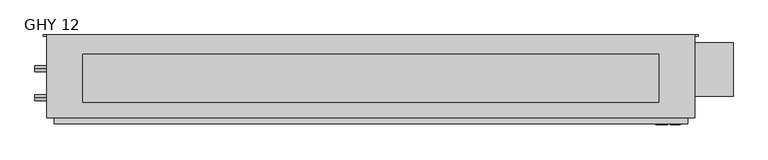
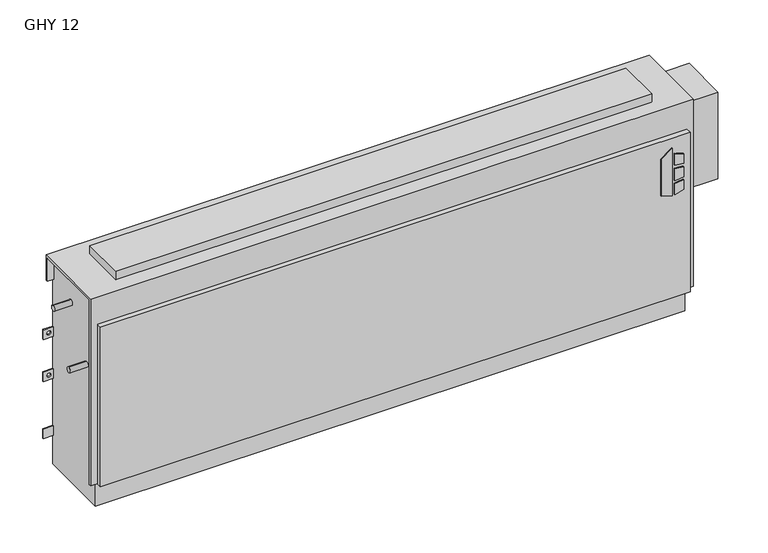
"""IFC4 building model written with IfcOpenShell, lengths in millimetres: proxy geometry, Vertical_Fan_Coil_Unit_-_GHY_-_IEC_-_2-Pipe_TS-FR_LH_2022 : GHY 12."""

import ifcopenshell
import ifcopenshell.guid

model = None  # the IFC model being written
_history = None  # IfcOwnerHistory: only IFC2X3 demands one
_inside = {}  # id of a spatial element -> (the spatial element, [elements in it])
_under = {}  # id of a project, library or spatial element -> (it, [spatial elements below it])
_declared = {}  # id of a project -> (the project, [libraries it declares])
_typed = {}  # id of a type object -> (the type object, [elements of that type])
_made_of = {}  # id of a material, layer set ... -> (it, [elements and type objects made of it])


def new_model(schema):
    """Start an empty IFC model of exactly this schema.

    Asked for "IFC4X3", IfcOpenShell would pick the latest addendum, in which some entities
    have other attributes; the version numbers below select the first issue.
    IFC2X3 requires an IfcOwnerHistory on every rooted entity: one is made here for all.
    """
    global model, _history
    if schema == "IFC4X3":
        model = ifcopenshell.file(schema_version=(4, 3, 0, 0))
    else:
        model = ifcopenshell.file(schema=schema)
    _inside.clear()
    _under.clear()
    _declared.clear()
    _typed.clear()
    _made_of.clear()
    _history = None
    if model.schema == "IFC2X3":
        org = make("IfcOrganization", Name="unknown")
        user = make(
            "IfcPersonAndOrganization",
            ThePerson=make("IfcPerson", FamilyName="unknown"),
            TheOrganization=org,
        )
        app = make(
            "IfcApplication",
            ApplicationDeveloper=org,
            Version="unknown",
            ApplicationFullName="unknown",
            ApplicationIdentifier="unknown",
        )
        _history = make(
            "IfcOwnerHistory",
            OwningUser=user,
            OwningApplication=app,
            ChangeAction="ADDED",
            CreationDate=0,
        )
    return model


def make(cls, **values):
    """One entity of the class cls with the attributes given. An attribute that is None is left unset."""
    return model.create_entity(
        cls, **{name: value for name, value in values.items() if value is not None}
    )


def rooted(cls, **values):
    """An entity with a GlobalId (a new one), such as an element, a storey or a relation."""
    return make(cls, GlobalId=ifcopenshell.guid.new(), OwnerHistory=_history, **values)


def si_unit(unit_type, name, prefix=None):
    """IfcSIUnit, for example si_unit("LENGTHUNIT", "METRE", prefix="MILLI")."""
    return make("IfcSIUnit", UnitType=unit_type, Prefix=prefix, Name=name)


def assignment(units):
    """IfcUnitAssignment: the units of a project."""
    return None if units is None else make("IfcUnitAssignment", Units=units)


def point(xyz):
    """IfcCartesianPoint."""
    return None if xyz is None else make("IfcCartesianPoint", Coordinates=xyz)


def direction(xyz):
    """IfcDirection."""
    return None if xyz is None else make("IfcDirection", DirectionRatios=xyz)


def frame(location, z_axis=None, x_axis=None):
    """IfcAxis2Placement3D, a coordinate frame: its origin and axes. An axis left out is left unset."""
    return make(
        "IfcAxis2Placement3D",
        Location=point(location),
        Axis=direction(z_axis),
        RefDirection=direction(x_axis),
    )


def frame_2d(location, x_axis=None):
    """IfcAxis2Placement2D, a coordinate frame in the plane: its origin and x axis."""
    return make(
        "IfcAxis2Placement2D", Location=point(location), RefDirection=direction(x_axis)
    )


def origin():
    """The frame at (0, 0, 0) with its axes left unset."""
    return frame((0.0, 0.0, 0.0))


def place(relative_to, where):
    """IfcLocalPlacement: puts the frame where relative to a parent placement (None: the world)."""
    return make(
        "IfcLocalPlacement", PlacementRelTo=relative_to, RelativePlacement=where
    )


def context(
    kind, dimensions, precision=None, world=None, true_north=None, identifier=None
):
    """IfcGeometricRepresentationContext, for example the 3D "Model" context."""
    return make(
        "IfcGeometricRepresentationContext",
        ContextIdentifier=identifier,
        ContextType=kind,
        CoordinateSpaceDimension=dimensions,
        Precision=precision,
        WorldCoordinateSystem=world,
        TrueNorth=true_north,
    )


def project(units=None, contexts=None):
    """IfcProject with its units and contexts."""
    return rooted(
        "IfcProject",
        Name="project",
        RepresentationContexts=contexts,
        UnitsInContext=assignment(units),
    )


def spatial(cls, under=None, at=None, **own):
    """A site, building, storey or space (cls), placed at a placement, below another one or the project."""
    s = rooted(cls, ObjectPlacement=at, **own)
    if under is not None:
        _under.setdefault(under.id(), (under, []))[1].append(s)
    return s


def polyline(points):
    """IfcPolyline through the points."""
    return make("IfcPolyline", Points=[point(p) for p in points])


def circle_curve(where, radius):
    """IfcCircle in the frame where."""
    return make("IfcCircle", Position=where, Radius=radius)


def trimmed(basis, trim1, trim2, sense, master):
    """IfcTrimmedCurve: the piece of a basis curve between two trims."""
    return make(
        "IfcTrimmedCurve",
        BasisCurve=basis,
        Trim1=trim1,
        Trim2=trim2,
        SenseAgreement=sense,
        MasterRepresentation=master,
    )


def segment(curve, same_sense, transition):
    """IfcCompositeCurveSegment."""
    return make(
        "IfcCompositeCurveSegment",
        Transition=transition,
        SameSense=same_sense,
        ParentCurve=curve,
    )


def composite_curve(segments, self_intersect=None):
    """IfcCompositeCurve: segments joined end to end."""
    return make("IfcCompositeCurve", Segments=segments, SelfIntersect=self_intersect)


def outline(outer, holes=None, kind="AREA"):
    """IfcArbitraryClosedProfileDef: a profile drawn as a closed curve; with holes, ...WithVoids."""
    if holes is None:
        return make("IfcArbitraryClosedProfileDef", ProfileType=kind, OuterCurve=outer)
    return make(
        "IfcArbitraryProfileDefWithVoids",
        ProfileType=kind,
        OuterCurve=outer,
        InnerCurves=holes,
    )


def extrude(swept, where, along, depth):
    """IfcExtrudedAreaSolid: the profile swept, set in the frame where, extruded along a direction by depth."""
    return make(
        "IfcExtrudedAreaSolid",
        SweptArea=swept,
        Position=where,
        ExtrudedDirection=direction(along),
        Depth=depth,
    )


def shape(context_of_items, identifier, shape_type, items):
    """IfcShapeRepresentation: the items that make up one representation, for example the "Body"."""
    return make(
        "IfcShapeRepresentation",
        ContextOfItems=context_of_items,
        RepresentationIdentifier=identifier,
        RepresentationType=shape_type,
        Items=items,
    )


def source(mapping_origin, context_of_items, identifier, shape_type, items):
    """IfcRepresentationMap: a shape defined once, which mapped items show again and again."""
    return make(
        "IfcRepresentationMap",
        MappingOrigin=mapping_origin,
        MappedRepresentation=shape(context_of_items, identifier, shape_type, items),
    )


def transform(
    local_origin,
    x_axis=None,
    y_axis=None,
    z_axis=None,
    scale=None,
    scale2=None,
    scale3=None,
    uniform=True,
):
    """IfcCartesianTransformationOperator3D, or its non-uniform kind. x_axis, y_axis, z_axis: its Axis1, 2, 3."""
    if uniform:
        return make(
            "IfcCartesianTransformationOperator3D",
            Axis1=direction(x_axis),
            Axis2=direction(y_axis),
            LocalOrigin=point(local_origin),
            Scale=scale,
            Axis3=direction(z_axis),
        )
    return make(
        "IfcCartesianTransformationOperator3DnonUniform",
        Axis1=direction(x_axis),
        Axis2=direction(y_axis),
        LocalOrigin=point(local_origin),
        Scale=scale,
        Axis3=direction(z_axis),
        Scale2=scale2,
        Scale3=scale3,
    )


def mapped(mapping_source, mapping_target):
    """IfcMappedItem: shows the shape of a source again, moved by a transform."""
    return make(
        "IfcMappedItem", MappingSource=mapping_source, MappingTarget=mapping_target
    )


def made_of(thing, what):
    """Note that an element or type object is made of a material, layer set ...; save() writes the relation."""
    if what is not None:
        _made_of.setdefault(what.id(), (what, []))[1].append(thing)
    return thing


def element(
    cls,
    number,
    at=None,
    inside=None,
    cuts=None,
    type_object=None,
    material=None,
    context=None,
    identifier="Body",
    shape_type=None,
    held_by="IfcProductDefinitionShape",
    body=None,
    shapes=None,
    **own,
):
    """One element of the class cls, such as IfcWall. Its Tag is "e" and its number.

    at: its placement. inside: the storey or other place that contains it. cuts: it is an
    opening in that element (IfcRelVoidsElement). A single representation is given by context,
    identifier, shape_type and body (its items); several are given by shapes. held_by: the class
    of the entity that holds the representations. save() writes the other relations.
    """
    e = rooted(cls, Tag="e%d" % number, ObjectPlacement=at, **own)
    if body is not None:
        shapes = [shape(context, identifier, shape_type, body)]
    if shapes is not None:
        e.Representation = make(held_by, Representations=shapes)
    if inside is not None:
        _inside.setdefault(inside.id(), (inside, []))[1].append(e)
    if cuts is not None:
        rooted(
            "IfcRelVoidsElement", RelatingBuildingElement=cuts, RelatedOpeningElement=e
        )
    if type_object is not None:
        _typed.setdefault(type_object.id(), (type_object, []))[1].append(e)
    return made_of(e, material)


def aggregate(whole, parts):
    """IfcRelAggregates: a whole, such as a stair, and the parts it consists of."""
    return rooted("IfcRelAggregates", RelatingObject=whole, RelatedObjects=parts)


def save(model, path):
    """Write the relations noted so far, then the file.

    IfcRelAggregates (storeys below a building ...), IfcRelContainedInSpatialStructure (elements
    in a storey), IfcRelDefinesByType, IfcRelAssociatesMaterial and IfcRelDeclares: one each for
    every whole, place, type object, material and project.
    """
    for whole, parts in _under.values():
        aggregate(whole, parts)
    for where, things in _inside.values():
        rooted(
            "IfcRelContainedInSpatialStructure",
            RelatedElements=things,
            RelatingStructure=where,
        )
    for kind, things in _typed.values():
        rooted("IfcRelDefinesByType", RelatedObjects=things, RelatingType=kind)
    for what, things in _made_of.values():
        rooted("IfcRelAssociatesMaterial", RelatedObjects=things, RelatingMaterial=what)
    for by, libraries in _declared.values():
        rooted("IfcRelDeclares", RelatingContext=by, RelatedDefinitions=libraries)
    model.write(path)


def plane_surface(at):
    """IfcPlane: the flat surface through the origin of the frame at, square to its z axis."""
    return make("IfcPlane", Position=at)


def revolved_surface(curve, axis_point, axis_direction):
    """IfcSurfaceOfRevolution: the curve turned about the line through axis_point along axis_direction."""
    return make(
        "IfcSurfaceOfRevolution",
        SweptCurve=make("IfcArbitraryOpenProfileDef", ProfileType="CURVE", Curve=curve),
        AxisPosition=make("IfcAxis1Placement", Location=point(axis_point), Axis=direction(axis_direction)),
    )


def advanced_brep(points, edges, surfaces, faces):
    """IfcAdvancedBrep: a solid bounded by faces that lie on surfaces and meet in shared edges.

    An edge is (start, end): straight between two places in points (the first is 0);
    or (start, end, curve); or (start, end, curve, False) where it runs against its curve.
    A face is (place in surfaces, loops), or (place, loops, False) where it looks against
    its surface's normal. A loop lists edges by number (the first is 1), with a minus sign
    where the edge is run from its end to its start. The first loop is the outer one.
    """
    corners = [point(p) for p in points]
    vertices = [make("IfcVertexPoint", VertexGeometry=c) for c in corners]
    made = []
    for start, end, *more in edges:
        made.append(
            make(
                "IfcEdgeCurve",
                EdgeStart=vertices[start],
                EdgeEnd=vertices[end],
                EdgeGeometry=more[0] if more else make("IfcPolyline", Points=[corners[start], corners[end]]),
                SameSense=more[1] if len(more) > 1 else True,
            )
        )
    hull = []
    for where, loops, *sense in faces:
        bounds = []
        for j, loop in enumerate(loops):
            ring = [make("IfcOrientedEdge", EdgeElement=made[abs(k) - 1], Orientation=k > 0) for k in loop]
            bounds.append(
                make(
                    "IfcFaceOuterBound" if j == 0 else "IfcFaceBound",
                    Bound=make("IfcEdgeLoop", EdgeList=ring),
                    Orientation=True,
                )
            )
        hull.append(make("IfcAdvancedFace", Bounds=bounds, FaceSurface=surfaces[where], SameSense=sense[0] if sense else True))
    return make("IfcAdvancedBrep", Outer=make("IfcClosedShell", CfsFaces=hull))


def ghy_12_9496aa0a(model_context):
    return source(origin(), model_context, "Body", "SolidModel", [
        extrude(outline(polyline([(391.6086829, 906.5368862), (381.6606126, 938.7102728), (523.831537, 938.7102728), (500.8095309, 906.5368862), (391.6086829, 906.5368862)])), frame((0.0, 6.35, 0.0), z_axis=(0.0, 1.0, 0.0), x_axis=(0.0, 0.0, 1.0)), (0.0, 0.0, 1.0), 3.175),
        extrude(outline(polyline([(470.6079683, 945.4686058), (467.4055757, 971.55), (496.6344168, 971.55), (504.6988318, 945.4686058), (470.6079683, 945.4686058)])), frame((0.0, 6.35, 0.0), z_axis=(0.0, 1.0, 0.0), x_axis=(0.0, 0.0, 1.0)), (0.0, 0.0, 1.0), 3.175),
        extrude(outline(polyline([(418.7444414, 971.55), (415.0789404, 945.4686058), (381.6606126, 945.4686058), (390.2948498, 971.55), (418.7444414, 971.55)])), frame((0.0, 6.35, 0.0), z_axis=(0.0, 1.0, 0.0), x_axis=(0.0, 0.0, 1.0)), (0.0, 0.0, 1.0), 3.175),
        extrude(outline(polyline([(458.0596028, 971.55), (460.3414292, 945.4686058), (424.4038806, 945.4686058), (427.1451456, 971.55), (458.0596028, 971.55)])), frame((0.0, 6.35, 0.0), z_axis=(0.0, 1.0, 0.0), x_axis=(0.0, 0.0, 1.0)), (0.0, 0.0, 1.0), 3.175),
        extrude(outline(polyline([(914.4, 193.675), (914.4, 66.675), (-609.6, 66.675), (-609.6, 193.675), (914.4, 193.675)])), frame((0.0, 0.0, 635.0), z_axis=(0.0, 0.0, 1.0), x_axis=(1.0, 0.0, 0.0)), (0.0, 0.0, 1.0), 25.4),
        extrude(outline(composite_curve([segment(trimmed(circle_curve(frame_2d((77.597, 401.574)), 7.9375), [point((77.597, 409.5115))], [point((77.597, 393.6365))], False, "CARTESIAN"), True, "CONTINUOUS"), segment(trimmed(circle_curve(frame_2d((77.597, 401.574)), 7.9375), [point((77.597, 393.6365))], [point((77.597, 409.5115))], False, "CARTESIAN"), True, "CONTINUOUS")], self_intersect=False)), frame((-736.6, 0.0, 0.0), z_axis=(1.0, 0.0, 0.0), x_axis=(0.0, 1.0, 0.0)), (0.0, 0.0, 1.0), 50.8),
        extrude(outline(composite_curve([segment(trimmed(circle_curve(frame_2d((154.559, 540.512)), 7.9375), [point((154.559, 548.4495))], [point((154.559, 532.5745))], False, "CARTESIAN"), True, "CONTINUOUS"), segment(trimmed(circle_curve(frame_2d((154.559, 540.512)), 7.9375), [point((154.559, 532.5745))], [point((154.559, 548.4495))], False, "CARTESIAN"), True, "CONTINUOUS")], self_intersect=False)), frame((-736.6, 0.0, 0.0), z_axis=(1.0, 0.0, 0.0), x_axis=(0.0, 1.0, 0.0)), (0.0, 0.0, 1.0), 50.8),
        extrude(outline(polyline([(1111.25, 223.266), (1111.25, 81.534), (990.6, 81.534), (990.6, 223.266), (1111.25, 223.266)])), frame((0.0, 0.0, 327.025), z_axis=(0.0, 0.0, 1.0), x_axis=(1.0, 0.0, 0.0)), (0.0, 0.0, 1.0), 260.35),
        advanced_brep(
        [(1009.65, 244.475, 635.0), (-704.85, 244.475, 635.0), (-704.85, 25.4, 635.0), (1009.65, 25.4, 635.0), (-685.8, 244.475, 0.0), (990.6, 244.475, 0.0), (990.6, 34.925, 0.0), (-685.8, 34.925, 0.0), (1009.65, 244.475, 558.8), (990.6, 244.475, 558.8), (990.6, 244.475, 414.3375), (1019.175, 244.475, 414.3375), (1019.175, 244.475, 385.7625), (990.6, 244.475, 385.7625), (990.6, 244.475, 287.3375), (1019.175, 244.475, 287.3375), (1019.175, 244.475, 258.7625), (990.6, 244.475, 258.7625), (990.6, 244.475, 141.2875), (1019.175, 244.475, 141.2875), (1019.175, 244.475, 112.7125), (990.6, 244.475, 112.7125), (-685.8, 244.475, 87.3125), (-714.375, 244.475, 87.3125), (-714.375, 244.475, 115.8875), (-685.8, 244.475, 115.8875), (-685.8, 244.475, 258.7625), (-714.375, 244.475, 258.7625), (-714.375, 244.475, 287.3375), (-685.8, 244.475, 287.3375), (-685.8, 244.475, 385.7625), (-714.375, 244.475, 385.7625), (-714.375, 244.475, 414.3375), (-685.8, 244.475, 414.3375), (-685.8, 244.475, 558.8), (-704.85, 244.475, 558.8), (1008.8626, 244.475, 127.0), (997.7374, 244.475, 127.0), (1008.8626, 244.475, 273.05), (997.7374, 244.475, 273.05), (-692.9374, 244.475, 273.05), (-704.0626, 244.475, 273.05), (1008.8626, 244.475, 400.05), (997.7374, 244.475, 400.05), (-692.9374, 244.475, 400.05), (-704.0626, 244.475, 400.05), (-704.85, 238.125, 558.8), (-704.85, 238.125, 628.65), (-704.85, 31.75, 628.65), (-704.85, 31.75, 73.025), (-704.85, 25.4, 73.025), (990.6, 9.525, 552.45), (-685.8, 9.525, 552.45), (-685.8, 9.525, 73.025), (990.6, 9.525, 73.025), (1009.65, 25.4, 73.025), (1009.65, 31.75, 73.025), (1009.65, 31.75, 628.65), (1009.65, 238.125, 628.65), (1009.65, 238.125, 558.8), (-685.8, 25.4, 73.025), (-685.8, 25.4, 552.45), (990.6, 25.4, 552.45), (990.6, 25.4, 73.025), (-685.8, 31.75, 73.025), (-685.8, 34.925, 73.025), (990.6, 34.925, 73.025), (990.6, 31.75, 73.025), (990.6, 241.3, 112.7125), (990.6, 241.3, 141.2875), (990.6, 241.3, 258.7625), (990.6, 241.3, 287.3375), (990.6, 241.3, 385.7625), (990.6, 241.3, 414.3375), (990.6, 238.125, 558.8), (990.6, 238.125, 628.65), (990.6, 31.75, 628.65), (-685.8, 31.75, 628.65), (-685.8, 238.125, 628.65), (-685.8, 238.125, 558.8), (-685.8, 241.3, 414.3375), (-685.8, 241.3, 385.7625), (-685.8, 241.3, 287.3375), (-685.8, 241.3, 258.7625), (-685.8, 241.3, 115.8875), (-685.8, 241.3, 87.3125), (1019.175, 241.3, 112.7125), (1019.175, 241.3, 141.2875), (997.7374, 241.3, 127.0), (1008.8626, 241.3, 127.0), (1019.175, 241.3, 258.7625), (1019.175, 241.3, 287.3375), (997.7374, 241.3, 273.05), (1008.8626, 241.3, 273.05), (1019.175, 241.3, 385.7625), (1019.175, 241.3, 414.3375), (997.7374, 241.3, 400.05), (1008.8626, 241.3, 400.05), (-714.375, 241.3, 115.8875), (-714.375, 241.3, 87.3125), (-714.375, 241.3, 287.3375), (-714.375, 241.3, 258.7625), (-704.0626, 241.3, 273.05), (-692.9374, 241.3, 273.05), (-714.375, 241.3, 414.3375), (-714.375, 241.3, 385.7625), (-704.0626, 241.3, 400.05), (-692.9374, 241.3, 400.05)],
        [
            (0, 1),
            (1, 2),
            (2, 3),
            (3, 0),
            (4, 5),
            (5, 6),
            (6, 7),
            (7, 4),
            (0, 8),
            (8, 9),
            (9, 10),
            (10, 11),
            (11, 12),
            (12, 13),
            (13, 14),
            (14, 15),
            (15, 16),
            (16, 17),
            (17, 18),
            (18, 19),
            (19, 20),
            (20, 21),
            (21, 5),
            (4, 22),
            (22, 23),
            (23, 24),
            (24, 25),
            (25, 26),
            (26, 27),
            (27, 28),
            (28, 29),
            (29, 30),
            (30, 31),
            (31, 32),
            (32, 33),
            (33, 34),
            (34, 35),
            (35, 1),
            (36, 37, circle_curve(frame((1003.3, 244.475, 127.0), z_axis=(0.0, -1.0, 0.0), x_axis=(-1.0, 0.0, 0.0)), 5.5626)),
            (37, 36, circle_curve(frame((1003.3, 244.475, 127.0), z_axis=(0.0, -1.0, 0.0), x_axis=(-1.0, 0.0, 0.0)), 5.5626)),
            (38, 39, circle_curve(frame((1003.3, 244.475, 273.05), z_axis=(0.0, -1.0, 0.0), x_axis=(-1.0, 0.0, 0.0)), 5.5626)),
            (39, 38, circle_curve(frame((1003.3, 244.475, 273.05), z_axis=(0.0, -1.0, 0.0), x_axis=(-1.0, 0.0, 0.0)), 5.5626)),
            (40, 41, circle_curve(frame((-698.5, 244.475, 273.05), z_axis=(0.0, -1.0, 0.0), x_axis=(-1.0, 0.0, 0.0)), 5.5626)),
            (41, 40, circle_curve(frame((-698.5, 244.475, 273.05), z_axis=(0.0, -1.0, 0.0), x_axis=(-1.0, 0.0, 0.0)), 5.5626)),
            (42, 43, circle_curve(frame((1003.3, 244.475, 400.05), z_axis=(0.0, -1.0, 0.0), x_axis=(-1.0, 0.0, 0.0)), 5.5626)),
            (43, 42, circle_curve(frame((1003.3, 244.475, 400.05), z_axis=(0.0, -1.0, 0.0), x_axis=(-1.0, 0.0, 0.0)), 5.5626)),
            (44, 45, circle_curve(frame((-698.5, 244.475, 400.05), z_axis=(0.0, -1.0, 0.0), x_axis=(-1.0, 0.0, 0.0)), 5.5626)),
            (45, 44, circle_curve(frame((-698.5, 244.475, 400.05), z_axis=(0.0, -1.0, 0.0), x_axis=(-1.0, 0.0, 0.0)), 5.5626)),
            (35, 46),
            (46, 47),
            (47, 48),
            (48, 49),
            (49, 50),
            (50, 2),
            (51, 52),
            (52, 53),
            (53, 54),
            (54, 51),
            (3, 55),
            (55, 56),
            (56, 57),
            (57, 58),
            (58, 59),
            (59, 8),
            (50, 60),
            (60, 61),
            (61, 62),
            (62, 63),
            (63, 55),
            (51, 62),
            (61, 52),
            (53, 60),
            (49, 64),
            (64, 65),
            (65, 66),
            (66, 67),
            (67, 56),
            (63, 54),
            (6, 66),
            (65, 7),
            (21, 68),
            (68, 69),
            (69, 18),
            (17, 70),
            (70, 71),
            (71, 14),
            (13, 72),
            (72, 73),
            (73, 10),
            (9, 74),
            (74, 75),
            (75, 76),
            (76, 67),
            (64, 77),
            (77, 78),
            (78, 79),
            (79, 34),
            (33, 80),
            (80, 81),
            (81, 30),
            (29, 82),
            (82, 83),
            (83, 26),
            (25, 84),
            (84, 85),
            (85, 22),
            (74, 59),
            (58, 75),
            (76, 57),
            (48, 77),
            (79, 46),
            (78, 47),
            (68, 86),
            (86, 87),
            (87, 69),
            (88, 89, circle_curve(frame((1003.3, 241.3, 127.0), z_axis=(0.0, 1.0, 0.0), x_axis=(-1.0, 0.0, 0.0)), 5.5626)),
            (89, 88, circle_curve(frame((1003.3, 241.3, 127.0), z_axis=(0.0, 1.0, 0.0), x_axis=(-1.0, 0.0, 0.0)), 5.5626)),
            (90, 91),
            (91, 71),
            (70, 90),
            (92, 93, circle_curve(frame((1003.3, 241.3, 273.05), z_axis=(0.0, 1.0, 0.0), x_axis=(-1.0, 0.0, 0.0)), 5.5626)),
            (93, 92, circle_curve(frame((1003.3, 241.3, 273.05), z_axis=(0.0, 1.0, 0.0), x_axis=(-1.0, 0.0, 0.0)), 5.5626)),
            (94, 95),
            (95, 73),
            (72, 94),
            (96, 97, circle_curve(frame((1003.3, 241.3, 400.05), z_axis=(0.0, 1.0, 0.0), x_axis=(-1.0, 0.0, 0.0)), 5.5626)),
            (97, 96, circle_curve(frame((1003.3, 241.3, 400.05), z_axis=(0.0, 1.0, 0.0), x_axis=(-1.0, 0.0, 0.0)), 5.5626)),
            (98, 99),
            (99, 85),
            (84, 98),
            (82, 100),
            (100, 101),
            (101, 83),
            (102, 103, circle_curve(frame((-698.5, 241.3, 273.05), z_axis=(0.0, 1.0, 0.0), x_axis=(-1.0, 0.0, 0.0)), 5.5626)),
            (103, 102, circle_curve(frame((-698.5, 241.3, 273.05), z_axis=(0.0, 1.0, 0.0), x_axis=(-1.0, 0.0, 0.0)), 5.5626)),
            (104, 105),
            (105, 81),
            (80, 104),
            (106, 107, circle_curve(frame((-698.5, 241.3, 400.05), z_axis=(0.0, 1.0, 0.0), x_axis=(-1.0, 0.0, 0.0)), 5.5626)),
            (107, 106, circle_curve(frame((-698.5, 241.3, 400.05), z_axis=(0.0, 1.0, 0.0), x_axis=(-1.0, 0.0, 0.0)), 5.5626)),
            (87, 19),
            (86, 20),
            (16, 90),
            (91, 15),
            (12, 94),
            (95, 11),
            (24, 98),
            (99, 23),
            (101, 27),
            (100, 28),
            (32, 104),
            (105, 31),
            (88, 37),
            (36, 89),
            (92, 39),
            (38, 93),
            (102, 41),
            (40, 103),
            (96, 43),
            (42, 97),
            (106, 45),
            (44, 107),
        ],
        [
            plane_surface(frame((-704.85, 244.475, 635.0), z_axis=(0.0, 0.0, 1.0), x_axis=(-1.0, 0.0, 0.0))),
            plane_surface(frame((-704.85, 244.475, 0.0), z_axis=(0.0, 0.0, -1.0), x_axis=(1.0, 0.0, 0.0))),
            plane_surface(frame((1009.65, 244.475, 635.0), z_axis=(0.0, 1.0, 0.0), x_axis=(0.0, 0.0, -1.0))),
            plane_surface(frame((-704.85, 244.475, 635.0), z_axis=(-1.0, 0.0, 0.0), x_axis=(0.0, 0.0, -1.0))),
            plane_surface(frame((-704.85, 9.525, 635.0), z_axis=(0.0, -1.0, 0.0), x_axis=(0.0, 0.0, -1.0))),
            plane_surface(frame((1009.65, 9.525, 635.0), z_axis=(1.0, 0.0, 0.0), x_axis=(0.0, 0.0, -1.0))),
            plane_surface(frame((-1263.65, 25.4, 635.0), z_axis=(0.0, -1.0, 0.0), x_axis=(1.0, 0.0, 0.0))),
            plane_surface(frame((-1263.65, 25.4, 552.45), z_axis=(0.0, 0.0, 1.0), x_axis=(1.0, 0.0, 0.0))),
            plane_surface(frame((-704.85, 9.525, 73.025), z_axis=(0.0, 0.0, -1.0), x_axis=(1.0, 0.0, 0.0))),
            plane_surface(frame((-704.85, 34.925, 73.025), z_axis=(0.0, -1.0, 0.0), x_axis=(1.0, 0.0, 0.0))),
            plane_surface(frame((990.6, 25.4, 73.025), z_axis=(1.0, 0.0, 0.0), x_axis=(0.0, -1.0, 0.0))),
            plane_surface(frame((-685.8, 25.4, 552.45), z_axis=(-1.0, 0.0, 0.0), x_axis=(0.0, -1.0, 0.0))),
            plane_surface(frame((990.6, 244.475, 0.0), z_axis=(1.0, 0.0, 0.0), x_axis=(0.0, -1.0, 0.0))),
            plane_surface(frame((-685.8, 244.475, 73.025), z_axis=(-1.0, 0.0, 0.0), x_axis=(0.0, -1.0, 0.0))),
            plane_surface(frame((990.6, 238.125, 628.65), z_axis=(0.0, -1.0, 0.0), x_axis=(1.0, 0.0, 0.0))),
            plane_surface(frame((990.6, 238.125, 558.8), z_axis=(0.0, 0.0, -1.0), x_axis=(1.0, 0.0, 0.0))),
            plane_surface(frame((990.6, 31.75, 73.025), z_axis=(0.0, 1.0, 0.0), x_axis=(1.0, 0.0, 0.0))),
            plane_surface(frame((990.6, 31.75, 628.65), z_axis=(0.0, 0.0, -1.0), x_axis=(1.0, 0.0, 0.0))),
            plane_surface(frame((-685.8, 31.75, 628.65), z_axis=(0.0, 1.0, 0.0), x_axis=(-1.0, 0.0, 0.0))),
            plane_surface(frame((-685.8, 244.475, 558.8), z_axis=(0.0, 0.0, -1.0), x_axis=(-1.0, 0.0, 0.0))),
            plane_surface(frame((-685.8, 238.125, 558.8), z_axis=(0.0, -1.0, 0.0), x_axis=(-1.0, 0.0, 0.0))),
            plane_surface(frame((-685.8, 238.125, 628.65), z_axis=(0.0, 0.0, -1.0), x_axis=(-1.0, 0.0, 0.0))),
            plane_surface(frame((1019.175, 241.3, 141.2875), z_axis=(0.0, -1.0, 0.0), x_axis=(-1.0, 0.0, 0.0))),
            plane_surface(frame((990.6, 244.475, 141.2875), z_axis=(0.0, 0.0, 1.0), x_axis=(0.0, -1.0, 0.0))),
            plane_surface(frame((1019.175, 244.475, 141.2875), z_axis=(1.0, 0.0, 0.0), x_axis=(0.0, -1.0, 0.0))),
            plane_surface(frame((1019.175, 244.475, 112.7125), z_axis=(0.0, 0.0, -1.0), x_axis=(0.0, -1.0, 0.0))),
            plane_surface(frame((1019.175, 244.475, 258.7625), z_axis=(0.0, 0.0, -1.0), x_axis=(0.0, -1.0, 0.0))),
            plane_surface(frame((990.6, 244.475, 287.3375), z_axis=(0.0, 0.0, 1.0), x_axis=(0.0, -1.0, 0.0))),
            plane_surface(frame((1019.175, 244.475, 287.3375), z_axis=(1.0, 0.0, 0.0), x_axis=(0.0, -1.0, 0.0))),
            plane_surface(frame((1019.175, 244.475, 385.7625), z_axis=(0.0, 0.0, -1.0), x_axis=(0.0, -1.0, 0.0))),
            plane_surface(frame((990.6, 244.475, 414.3375), z_axis=(0.0, 0.0, 1.0), x_axis=(0.0, -1.0, 0.0))),
            plane_surface(frame((1019.175, 244.475, 414.3375), z_axis=(1.0, 0.0, 0.0), x_axis=(0.0, -1.0, 0.0))),
            plane_surface(frame((-714.375, 244.475, 115.8875), z_axis=(0.0, 0.0, 1.0), x_axis=(0.0, -1.0, 0.0))),
            plane_surface(frame((-685.8, 244.475, 87.3125), z_axis=(0.0, 0.0, -1.0), x_axis=(0.0, -1.0, 0.0))),
            plane_surface(frame((-714.375, 244.475, 87.3125), z_axis=(-1.0, 0.0, 0.0), x_axis=(0.0, -1.0, 0.0))),
            plane_surface(frame((-685.8, 244.475, 258.7625), z_axis=(0.0, 0.0, -1.0), x_axis=(0.0, -1.0, 0.0))),
            plane_surface(frame((-714.375, 244.475, 258.7625), z_axis=(-1.0, 0.0, 0.0), x_axis=(0.0, -1.0, 0.0))),
            plane_surface(frame((-714.375, 244.475, 287.3375), z_axis=(0.0, 0.0, 1.0), x_axis=(0.0, -1.0, 0.0))),
            plane_surface(frame((-714.375, 244.475, 414.3375), z_axis=(0.0, 0.0, 1.0), x_axis=(0.0, -1.0, 0.0))),
            plane_surface(frame((-685.8, 244.475, 385.7625), z_axis=(0.0, 0.0, -1.0), x_axis=(0.0, -1.0, 0.0))),
            plane_surface(frame((-714.375, 244.475, 385.7625), z_axis=(-1.0, 0.0, 0.0), x_axis=(0.0, -1.0, 0.0))),
            revolved_surface(polyline([(997.7374, 241.3, 127.0), (997.7374, 244.475, 127.0)]), (1003.3, 244.475, 127.0), (0.0, -1.0, 0.0)),
            revolved_surface(polyline([(997.7374, 241.3, 273.05), (997.7374, 244.475, 273.05)]), (1003.3, 244.475, 273.05), (0.0, -1.0, 0.0)),
            revolved_surface(polyline([(-704.0626, 241.3, 273.05), (-704.0626, 244.475, 273.05)]), (-698.5, 244.475, 273.05), (0.0, -1.0, 0.0)),
            revolved_surface(polyline([(997.7374, 241.3, 400.05), (997.7374, 244.475, 400.05)]), (1003.3, 244.475, 400.05), (0.0, -1.0, 0.0)),
            revolved_surface(polyline([(-704.0626, 241.3, 400.05), (-704.0626, 244.475, 400.05)]), (-698.5, 244.475, 400.05), (0.0, -1.0, 0.0)),
        ],
        [
            (0, [[1, 2, 3, 4]]),
            (1, [[5, 6, 7, 8]]),
            (2, [[-1, 9, 10, 11, 12, 13, 14, 15, 16, 17, 18, 19, 20, 21, 22, 23, -5, 24, 25, 26, 27, 28, 29, 30, 31, 32, 33, 34, 35, 36, 37, 38], [39, 40], [41, 42], [43, 44], [45, 46], [47, 48]]),
            (3, [[-2, -38, 49, 50, 51, 52, 53, 54]]),
            (4, [[55, 56, 57, 58]]),
            (5, [[-4, 59, 60, 61, 62, 63, 64, -9]]),
            (6, [[-3, -54, 65, 66, 67, 68, 69, -59]]),
            (7, [[-55, 70, -67, 71]]),
            (8, [[-57, 72, -65, -53, 73, 74, 75, 76, 77, -60, -69, 78]]),
            (9, [[-7, 79, -75, 80]]),
            (10, [[-68, -70, -58, -78]]),
            (11, [[-66, -72, -56, -71]]),
            (12, [[-6, -23, 81, 82, 83, -19, 84, 85, 86, -15, 87, 88, 89, -11, 90, 91, 92, 93, -76, -79]]),
            (13, [[-8, -80, -74, 94, 95, 96, 97, -36, 98, 99, 100, -32, 101, 102, 103, -28, 104, 105, 106, -24]]),
            (14, [[-91, 107, -63, 108]]),
            (15, [[-90, -10, -64, -107]]),
            (16, [[-93, 109, -61, -77]]),
            (17, [[-92, -108, -62, -109]]),
            (18, [[-94, -73, -52, 110]]),
            (19, [[-97, 111, -49, -37]]),
            (20, [[-96, 112, -50, -111]]),
            (21, [[-95, -110, -51, -112]]),
            (22, [[113, 114, 115, -82], [116, 117]]),
            (22, [[118, 119, -85, 120], [121, 122]]),
            (22, [[123, 124, -88, 125], [126, 127]]),
            (22, [[128, 129, -105, 130]]),
            (22, [[131, 132, 133, -102], [134, 135]]),
            (22, [[136, 137, -99, 138], [139, 140]]),
            (23, [[-115, 141, -20, -83]]),
            (24, [[-114, 142, -21, -141]]),
            (25, [[-113, -81, -22, -142]]),
            (26, [[-120, -84, -18, 143]]),
            (27, [[-119, 144, -16, -86]]),
            (28, [[-118, -143, -17, -144]]),
            (29, [[-125, -87, -14, 145]]),
            (30, [[-124, 146, -12, -89]]),
            (31, [[-123, -145, -13, -146]]),
            (32, [[-130, -104, -27, 147]]),
            (33, [[-129, 148, -25, -106]]),
            (34, [[-128, -147, -26, -148]]),
            (35, [[-133, 149, -29, -103]]),
            (36, [[-132, 150, -30, -149]]),
            (37, [[-131, -101, -31, -150]]),
            (38, [[-138, -98, -35, 151]]),
            (39, [[-137, 152, -33, -100]]),
            (40, [[-136, -151, -34, -152]]),
            (41, [[153, -39, 154, -116]]),
            (41, [[-153, -117, -154, -40]]),
            (42, [[155, -41, 156, -121]]),
            (42, [[-155, -122, -156, -42]]),
            (43, [[157, -43, 158, -134]]),
            (43, [[-157, -135, -158, -44]]),
            (44, [[159, -45, 160, -126]]),
            (44, [[-159, -127, -160, -46]]),
            (45, [[161, -47, 162, -139]]),
            (45, [[-161, -140, -162, -48]]),
        ],
    ),
    ])


if __name__ == "__main__":
    model = new_model("IFC4")
    model_context = context("Model", 3, world=origin())
    ifc_project = project(units=[si_unit("LENGTHUNIT", "METRE", prefix="MILLI")], contexts=[model_context])
    site = spatial("IfcSite", under=ifc_project)
    building = spatial("IfcBuilding", under=site)
    placement = place(None, origin())
    ghy_12_shape = ghy_12_9496aa0a(model_context)
    element("IfcBuildingElementProxy", 1, Name="Vertical_Fan_Coil_Unit_-_GHY_-_IEC_-_2-Pipe_TS-FR_LH_2022 : GHY 12", ObjectType="Vertical_Fan_Coil_Unit_-_GHY_-_IEC_-_2-Pipe_TS-FR_LH_2022 : GHY 12", at=placement, inside=building, context=model_context, shape_type="MappedRepresentation", body=[
        mapped(ghy_12_shape, transform((0.0, 0.0, 0.0), x_axis=(1.0, 0.0, 0.0), y_axis=(0.0, 1.0, 0.0), z_axis=(0.0, 0.0, 1.0))),
    ])
    save(model, "model.ifc")
